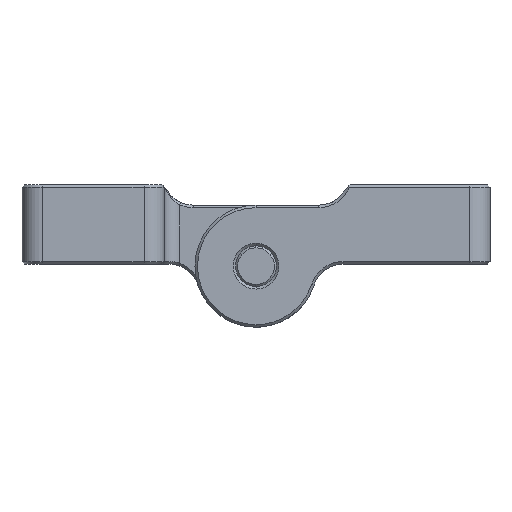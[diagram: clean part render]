
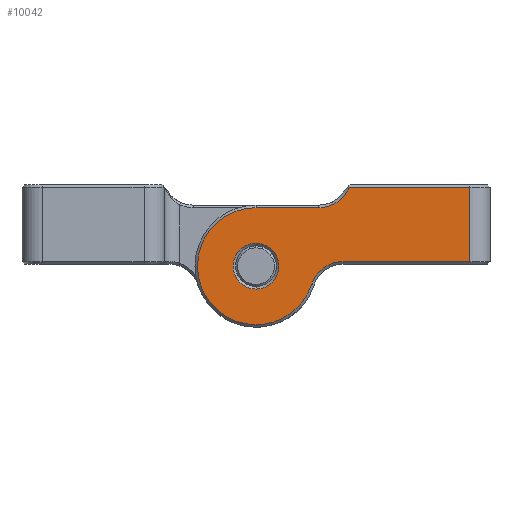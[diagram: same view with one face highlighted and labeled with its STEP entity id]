
A CAD part, front view. The second image highlights one B-rep face of the part: STEP entity #10042.
In plain terms, the highlighted planar face has unit normal (0, -1, 0) as drawn and (0, 1, 0) by its records, which use the part's own axes.
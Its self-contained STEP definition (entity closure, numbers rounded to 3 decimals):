
#1071 = CARTESIAN_POINT ( 'NONE',  ( 0., 38., 1.125 ) ) ;
#1306 = EDGE_CURVE ( 'NONE', #31710, #3773, #29448, .T. ) ;
#2440 = CARTESIAN_POINT ( 'NONE',  ( -3.086, 38., 4.5 ) ) ;
#2472 = VERTEX_POINT ( 'NONE', #11282 ) ;
#2979 = CIRCLE ( 'NONE', #17645, 2.875 ) ;
#3145 = DIRECTION ( 'NONE',  ( 0., 0., 1. ) ) ;
#3275 = VECTOR ( 'NONE', #29099, 1000. ) ;
#3619 = CIRCLE ( 'NONE', #11020, 1.125 ) ;
#3773 = VERTEX_POINT ( 'NONE', #32481 ) ;
#4440 = VERTEX_POINT ( 'NONE', #21505 ) ;
#6003 = ORIENTED_EDGE ( 'NONE', *, *, #22909, .T. ) ;
#6855 = EDGE_CURVE ( 'NONE', #6951, #31149, #20615, .T. ) ;
#6951 = VERTEX_POINT ( 'NONE', #19494 ) ;
#6980 = VECTOR ( 'NONE', #16380, 1000. ) ;
#7044 = VERTEX_POINT ( 'NONE', #1071 ) ;
#7866 = EDGE_CURVE ( 'NONE', #7044, #2472, #3619, .T. ) ;
#7881 = CARTESIAN_POINT ( 'NONE',  ( -4.5, 38., 3.875 ) ) ;
#8100 = DIRECTION ( 'NONE',  ( 0., 1., 0. ) ) ;
#8227 = EDGE_CURVE ( 'NONE', #22354, #4440, #37524, .T. ) ;
#9928 = DIRECTION ( 'NONE',  ( 0., -1., 0. ) ) ;
#10042 = ADVANCED_FACE ( 'NONE', ( #26087, #16879 ), #14269, .T. ) ;
#11020 = AXIS2_PLACEMENT_3D ( 'NONE', #22258, #9928, #34193 ) ;
#11282 = CARTESIAN_POINT ( 'NONE',  ( 0., 38., -1.125 ) ) ;
#11379 = ORIENTED_EDGE ( 'NONE', *, *, #32556, .T. ) ;
#12234 = CARTESIAN_POINT ( 'NONE',  ( -2.732, 38., -0.894 ) ) ;
#13513 = CARTESIAN_POINT ( 'NONE',  ( -10.5, 38., 3.875 ) ) ;
#13665 = CARTESIAN_POINT ( 'NONE',  ( 0., 38., 2.875 ) ) ;
#14269 = PLANE ( 'NONE',  #23786 ) ;
#16380 = DIRECTION ( 'NONE',  ( 1., 0., 0. ) ) ;
#16848 = EDGE_CURVE ( 'NONE', #2472, #7044, #25430, .T. ) ;
#16879 = FACE_OUTER_BOUND ( 'NONE', #37968, .T. ) ;
#16950 = ORIENTED_EDGE ( 'NONE', *, *, #8227, .T. ) ;
#17504 = DIRECTION ( 'NONE',  ( 0., 1., 0. ) ) ;
#17645 = AXIS2_PLACEMENT_3D ( 'NONE', #23526, #8100, #32886 ) ;
#18733 = VERTEX_POINT ( 'NONE', #27472 ) ;
#18808 = EDGE_LOOP ( 'NONE', ( #21743, #31191 ) ) ;
#19222 = DIRECTION ( 'NONE',  ( 0., 0., 1. ) ) ;
#19341 = CARTESIAN_POINT ( 'NONE',  ( 0., 38., 0.225 ) ) ;
#19494 = CARTESIAN_POINT ( 'NONE',  ( 0., 38., -2.875 ) ) ;
#20089 = CARTESIAN_POINT ( 'NONE',  ( -4.277, 38., -1.4 ) ) ;
#20615 = CIRCLE ( 'NONE', #29207, 2.875 ) ;
#21505 = CARTESIAN_POINT ( 'NONE',  ( -4.586, 38., 3.875 ) ) ;
#21552 = CIRCLE ( 'NONE', #30840, 1.625 ) ;
#21683 = DIRECTION ( 'NONE',  ( 0., -1., 0. ) ) ;
#21743 = ORIENTED_EDGE ( 'NONE', *, *, #7866, .T. ) ;
#21963 = EDGE_CURVE ( 'NONE', #4440, #37102, #33542, .T. ) ;
#22258 = CARTESIAN_POINT ( 'NONE',  ( 0., 38., 0. ) ) ;
#22354 = VERTEX_POINT ( 'NONE', #13513 ) ;
#22909 = EDGE_CURVE ( 'NONE', #18733, #6951, #2979, .T. ) ;
#23526 = CARTESIAN_POINT ( 'NONE',  ( 0., 38., 0. ) ) ;
#23786 = AXIS2_PLACEMENT_3D ( 'NONE', #29852, #17504, #29984 ) ;
#23887 = ORIENTED_EDGE ( 'NONE', *, *, #21963, .T. ) ;
#23978 = ORIENTED_EDGE ( 'NONE', *, *, #31388, .T. ) ;
#24103 = DIRECTION ( 'NONE',  ( 0., 0., 1. ) ) ;
#24854 = VECTOR ( 'NONE', #39539, 1000. ) ;
#25430 = CIRCLE ( 'NONE', #38242, 1.125 ) ;
#25805 = ORIENTED_EDGE ( 'NONE', *, *, #1306, .T. ) ;
#25945 = AXIS2_PLACEMENT_3D ( 'NONE', #2440, #27493, #24103 ) ;
#26087 = FACE_BOUND ( 'NONE', #18808, .T. ) ;
#26444 = CARTESIAN_POINT ( 'NONE',  ( -4.277, 38., 0.225 ) ) ;
#27352 = LINE ( 'NONE', #13665, #6980 ) ;
#27472 = CARTESIAN_POINT ( 'NONE',  ( 0., 38., 2.875 ) ) ;
#27493 = DIRECTION ( 'NONE',  ( 0., -1., 0. ) ) ;
#28463 = CARTESIAN_POINT ( 'NONE',  ( 0., 38., 0. ) ) ;
#29099 = DIRECTION ( 'NONE',  ( -1., 0., 0. ) ) ;
#29207 = AXIS2_PLACEMENT_3D ( 'NONE', #31559, #37759, #19222 ) ;
#29448 = LINE ( 'NONE', #19341, #3275 ) ;
#29818 = DIRECTION ( 'NONE',  ( 1., 0., 0. ) ) ;
#29852 = CARTESIAN_POINT ( 'NONE',  ( 0., 38., 0. ) ) ;
#29984 = DIRECTION ( 'NONE',  ( 0., 0., 1. ) ) ;
#30840 = AXIS2_PLACEMENT_3D ( 'NONE', #20089, #32423, #35375 ) ;
#31149 = VERTEX_POINT ( 'NONE', #12234 ) ;
#31191 = ORIENTED_EDGE ( 'NONE', *, *, #16848, .T. ) ;
#31388 = EDGE_CURVE ( 'NONE', #31149, #31710, #21552, .T. ) ;
#31559 = CARTESIAN_POINT ( 'NONE',  ( 0., 38., 0. ) ) ;
#31710 = VERTEX_POINT ( 'NONE', #26444 ) ;
#32423 = DIRECTION ( 'NONE',  ( 0., -1., 0. ) ) ;
#32481 = CARTESIAN_POINT ( 'NONE',  ( -10.5, 38., 0.225 ) ) ;
#32556 = EDGE_CURVE ( 'NONE', #37102, #18733, #27352, .T. ) ;
#32886 = DIRECTION ( 'NONE',  ( 0., 0., 1. ) ) ;
#33542 = CIRCLE ( 'NONE', #25945, 1.625 ) ;
#34193 = DIRECTION ( 'NONE',  ( 0., 0., 1. ) ) ;
#34387 = EDGE_CURVE ( 'NONE', #3773, #22354, #36980, .T. ) ;
#34977 = ORIENTED_EDGE ( 'NONE', *, *, #6855, .T. ) ;
#35375 = DIRECTION ( 'NONE',  ( 0., 0., 1. ) ) ;
#36078 = VECTOR ( 'NONE', #29818, 1000. ) ;
#36710 = CARTESIAN_POINT ( 'NONE',  ( -10.5, 38., 4. ) ) ;
#36980 = LINE ( 'NONE', #36710, #24854 ) ;
#37102 = VERTEX_POINT ( 'NONE', #37899 ) ;
#37524 = LINE ( 'NONE', #7881, #36078 ) ;
#37759 = DIRECTION ( 'NONE',  ( 0., 1., 0. ) ) ;
#37899 = CARTESIAN_POINT ( 'NONE',  ( -3.086, 38., 2.875 ) ) ;
#37968 = EDGE_LOOP ( 'NONE', ( #38710, #16950, #23887, #11379, #6003, #34977, #23978, #25805 ) ) ;
#38242 = AXIS2_PLACEMENT_3D ( 'NONE', #28463, #21683, #3145 ) ;
#38710 = ORIENTED_EDGE ( 'NONE', *, *, #34387, .T. ) ;
#39539 = DIRECTION ( 'NONE',  ( 0., 0., 1. ) ) ;
